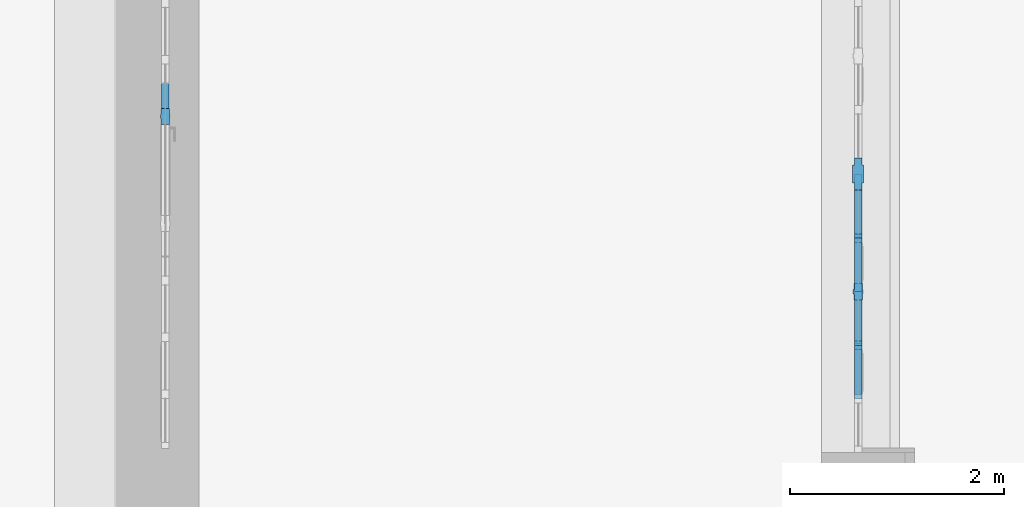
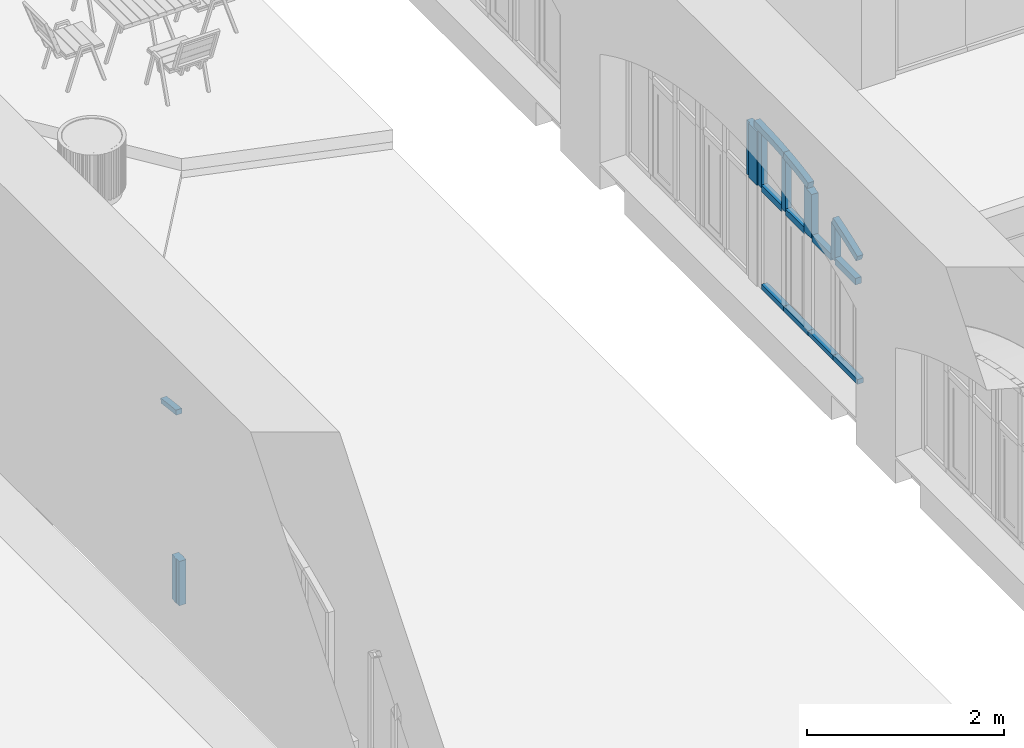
# One storey, part 39 of 88: 17 members, 2 elements without a shape of their own.
"""IFC2X3 building model written with IfcOpenShell, lengths in millimetres."""

from ifc_helpers import new_model, entity, si_unit, converted_unit, derived_unit, direction, frame, frame_2d, origin, place, context, subcontext, project, spatial, polyline, circle_curve, parameter, trimmed, segment, composite_curve, rectangle, outline, extrude, faceted_brep, source, transform, mapped, material, type_object, type_shapes, element, aggregate, save


model = new_model("IFC2X3")

# Units and contexts
model_context = context("Model", 3, precision=0.01, world=origin(), true_north=direction((6.123031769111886e-17, 1.0)))
body_context = subcontext(model_context, "Body", "Model", "MODEL_VIEW")
ifc_project = project(units=[si_unit("LENGTHUNIT", "METRE", prefix="MILLI"), si_unit("AREAUNIT", "SQUARE_METRE"), si_unit("VOLUMEUNIT", "CUBIC_METRE"), converted_unit("PLANEANGLEUNIT", "DEGREE", entity("IfcPlaneAngleMeasure", 0.017453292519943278), si_unit("PLANEANGLEUNIT", "RADIAN"), dimensions=[0, 0, 0, 0, 0, 0, 0]), si_unit("MASSUNIT", "GRAM", prefix="KILO"), derived_unit("MASSDENSITYUNIT", [(si_unit("MASSUNIT", "GRAM", prefix="KILO"), 1), (si_unit("LENGTHUNIT", "METRE"), -3)]), derived_unit("IONCONCENTRATIONUNIT", [(si_unit("MASSUNIT", "GRAM", prefix="KILO"), 1), (si_unit("LENGTHUNIT", "METRE"), -3)]), derived_unit("MOMENTOFINERTIAUNIT", [(si_unit("LENGTHUNIT", "METRE"), 4)]), si_unit("TIMEUNIT", "SECOND"), si_unit("FREQUENCYUNIT", "HERTZ"), si_unit("THERMODYNAMICTEMPERATUREUNIT", "DEGREE_CELSIUS"), derived_unit("THERMALTRANSMITTANCEUNIT", [(si_unit("MASSUNIT", "GRAM", prefix="KILO"), 1), (si_unit("THERMODYNAMICTEMPERATUREUNIT", "KELVIN"), -1), (si_unit("TIMEUNIT", "SECOND"), -3)]), derived_unit("THERMALCONDUCTANCEUNIT", [(si_unit("MASSUNIT", "GRAM", prefix="KILO"), 1), (si_unit("THERMODYNAMICTEMPERATUREUNIT", "KELVIN"), -1), (si_unit("TIMEUNIT", "SECOND"), -3), (si_unit("LENGTHUNIT", "METRE"), 1)]), derived_unit("VOLUMETRICFLOWRATEUNIT", [(si_unit("LENGTHUNIT", "METRE", prefix="DECI"), 3), (si_unit("TIMEUNIT", "SECOND"), -1)]), derived_unit("MASSFLOWRATEUNIT", [(si_unit("MASSUNIT", "GRAM", prefix="KILO"), 1), (si_unit("TIMEUNIT", "SECOND"), -1)]), derived_unit("ROTATIONALFREQUENCYUNIT", [(si_unit("TIMEUNIT", "SECOND"), -1)]), si_unit("ELECTRICCURRENTUNIT", "AMPERE"), si_unit("ELECTRICVOLTAGEUNIT", "VOLT"), si_unit("POWERUNIT", "WATT"), si_unit("FORCEUNIT", "NEWTON", prefix="KILO"), si_unit("ILLUMINANCEUNIT", "LUX"), si_unit("LUMINOUSFLUXUNIT", "LUMEN"), si_unit("LUMINOUSINTENSITYUNIT", "CANDELA"), si_unit("ENERGYUNIT", "JOULE"), derived_unit("USERDEFINED", [(si_unit("MASSUNIT", "GRAM", prefix="KILO"), -1), (si_unit("LENGTHUNIT", "METRE"), -2), (si_unit("TIMEUNIT", "SECOND"), 3), (si_unit("LUMINOUSFLUXUNIT", "LUMEN"), 1)]), derived_unit("USERDEFINED", [(si_unit("MASSUNIT", "GRAM", prefix="KILO"), 1), (si_unit("TIMEUNIT", "SECOND"), -3), (si_unit("LENGTHUNIT", "METRE"), 3), (si_unit("ELECTRICCURRENTUNIT", "AMPERE"), -2)]), derived_unit("SOUNDPOWERUNIT", [(si_unit("MASSUNIT", "GRAM", prefix="KILO"), 1), (si_unit("TIMEUNIT", "SECOND"), -3), (si_unit("LENGTHUNIT", "METRE"), 2)]), derived_unit("SOUNDPRESSUREUNIT", [(si_unit("MASSUNIT", "GRAM", prefix="KILO"), 1), (si_unit("LENGTHUNIT", "METRE"), -1), (si_unit("TIMEUNIT", "SECOND"), -2)]), derived_unit("LINEARVELOCITYUNIT", [(si_unit("LENGTHUNIT", "METRE"), 1), (si_unit("TIMEUNIT", "SECOND"), -1)]), si_unit("PRESSUREUNIT", "PASCAL"), derived_unit("USERDEFINED", [(si_unit("MASSUNIT", "GRAM", prefix="KILO"), 1), (si_unit("LENGTHUNIT", "METRE"), -2), (si_unit("TIMEUNIT", "SECOND"), -2)]), derived_unit("LINEARFORCEUNIT", [(si_unit("MASSUNIT", "GRAM", prefix="KILO"), 1), (si_unit("TIMEUNIT", "SECOND"), -2)]), derived_unit("PLANARFORCEUNIT", [(si_unit("MASSUNIT", "GRAM", prefix="KILO"), 1), (si_unit("LENGTHUNIT", "METRE"), -1), (si_unit("TIMEUNIT", "SECOND"), -2)]), derived_unit("SPECIFICHEATCAPACITYUNIT", [(si_unit("THERMODYNAMICTEMPERATUREUNIT", "KELVIN"), -1), (si_unit("LENGTHUNIT", "METRE"), 2), (si_unit("TIMEUNIT", "SECOND"), -2)]), derived_unit("HEATFLUXDENSITYUNIT", [(si_unit("MASSUNIT", "GRAM", prefix="KILO"), 1), (si_unit("TIMEUNIT", "SECOND"), -3)]), derived_unit("HEATINGVALUEUNIT", [(si_unit("LENGTHUNIT", "METRE"), 2), (si_unit("TIMEUNIT", "SECOND"), -2)]), derived_unit("VAPORPERMEABILITYUNIT", [(si_unit("LENGTHUNIT", "METRE"), -1), (si_unit("TIMEUNIT", "SECOND"), 1)]), derived_unit("DYNAMICVISCOSITYUNIT", [(si_unit("MASSUNIT", "GRAM", prefix="KILO"), 1), (si_unit("TIMEUNIT", "SECOND"), -1), (si_unit("LENGTHUNIT", "METRE"), -1)]), derived_unit("THERMALEXPANSIONCOEFFICIENTUNIT", [(si_unit("THERMODYNAMICTEMPERATUREUNIT", "KELVIN"), -1)]), derived_unit("MODULUSOFELASTICITYUNIT", [(si_unit("MASSUNIT", "GRAM", prefix="KILO"), 1), (si_unit("LENGTHUNIT", "METRE"), -1), (si_unit("TIMEUNIT", "SECOND"), -2)]), derived_unit("ISOTHERMALMOISTURECAPACITYUNIT", [(si_unit("MASSUNIT", "GRAM", prefix="KILO"), -1), (si_unit("LENGTHUNIT", "METRE"), 3)]), derived_unit("MOISTUREDIFFUSIVITYUNIT", [(si_unit("TIMEUNIT", "SECOND"), -1), (si_unit("LENGTHUNIT", "METRE"), 2)]), derived_unit("MASSPERLENGTHUNIT", [(si_unit("MASSUNIT", "GRAM", prefix="KILO"), 1), (si_unit("LENGTHUNIT", "METRE"), -1)]), derived_unit("THERMALRESISTANCEUNIT", [(si_unit("MASSUNIT", "GRAM", prefix="KILO"), -1), (si_unit("TIMEUNIT", "SECOND"), 3), (si_unit("THERMODYNAMICTEMPERATUREUNIT", "KELVIN"), 1)]), derived_unit("ACCELERATIONUNIT", [(si_unit("LENGTHUNIT", "METRE"), 1), (si_unit("TIMEUNIT", "SECOND"), -2)]), derived_unit("ANGULARVELOCITYUNIT", [(si_unit("TIMEUNIT", "SECOND"), -1), (si_unit("PLANEANGLEUNIT", "RADIAN"), 1)]), derived_unit("LINEARSTIFFNESSUNIT", [(si_unit("MASSUNIT", "GRAM", prefix="KILO"), 1), (si_unit("TIMEUNIT", "SECOND"), -2)]), derived_unit("WARPINGCONSTANTUNIT", [(si_unit("LENGTHUNIT", "METRE"), 6)]), derived_unit("LINEARMOMENTUNIT", [(si_unit("MASSUNIT", "GRAM", prefix="KILO"), 1), (si_unit("LENGTHUNIT", "METRE"), 1), (si_unit("TIMEUNIT", "SECOND"), -2)]), derived_unit("TORQUEUNIT", [(si_unit("MASSUNIT", "GRAM", prefix="KILO"), 1), (si_unit("LENGTHUNIT", "METRE"), 2), (si_unit("TIMEUNIT", "SECOND"), -2)])], contexts=[model_context])

# Site, building, storey
site_placement = place(None, origin())
site = spatial("IfcSite", under=ifc_project, at=site_placement, Name="Default", CompositionType="ELEMENT")
building_placement = place(site_placement, origin())
building = spatial("IfcBuilding", under=site, at=building_placement, Name="Eesti Rahvusraamatukogu hoone renoveerimise projekteerimistööd", CompositionType="ELEMENT")
storey_placement = place(building_placement, origin())
storey = spatial("IfcBuildingStorey", under=building, at=storey_placement, Name="1. korrus", CompositionType="ELEMENT", Elevation=0.0)

# Curtain wall, members
curtain_wall_type_1 = type_object("IfcCurtainWallType", Name="Curtain Wall:Ak-02", PredefinedType="NOTDEFINED")
curtain_wall_1_placement = place(storey_placement, origin())
curtain_wall_1 = element("IfcCurtainWall", 1, at=curtain_wall_1_placement, inside=storey, type_object=curtain_wall_type_1, Name="Curtain Wall:Ak-02", ObjectType="Curtain Wall:Ak-02")
ifc_material = material(Name="LUMION_dark steel window frames")
member_type_1 = type_object("IfcMemberType", Name="Rectangular Mullion:NEW 80x70mm", PredefinedType="MULLION", material=ifc_material)
shared_shape_1 = source(origin(), body_context, "Body", "SweptSolid", [
    extrude(outline(composite_curve([segment(polyline([(-56.23219214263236, -297.82636877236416), (23.767807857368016, -297.82636877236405)]), True, "CONTINUOUS"), segment(trimmed(circle_curve(frame_2d((5464.483487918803, -297.82636877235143), x_axis=(-0.9940766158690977, 0.10868156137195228)), 5440.715680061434), [parameter(3.053332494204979e-13)], [parameter(6.2393189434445)], True, "PARAMETER"), False, "CONTINUOUS"), segment(polyline([(55.99525677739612, 293.47910631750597), (-23.53087249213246, 302.1736312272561)]), True, "CONTINUOUS"), segment(trimmed(circle_curve(frame_2d((5464.483487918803, -297.82636877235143), x_axis=(-0.9940766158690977, 0.10868156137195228)), 5520.715680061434), [parameter(3.5622212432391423e-13)], [parameter(6.2393189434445)], True, "PARAMETER"), True, "CONTINUOUS")], self_intersect=False)), frame((-56.23219214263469, -35.0, -297.82636877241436), z_axis=(0.0, 1.0, 0.0), x_axis=(-0.9940766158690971, 0.0, 0.10868156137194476)), (0.0, 0.0, 1.0), 69.99999999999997),
])
type_shapes(member_type_1, [shared_shape_1])
member_1_placement = place(curtain_wall_1_placement, frame((-36440.0, 38790.0, 3947.870459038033), z_axis=(0.0, -0.9940766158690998, -0.108681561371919), x_axis=(0.0, -0.108681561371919, 0.9940766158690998)))
member_1 = element("IfcMember", 2, at=member_1_placement, type_object=member_type_1, material=ifc_material, Name="Rectangular Mullion:NEW 80x70mm", ObjectType="Rectangular Mullion:NEW 80x70mm", context=body_context, shape_type="MappedRepresentation", body=[
    mapped(shared_shape_1, transform((0.0, 0.0, 0.0), scale=1.0)),
])
member_type_2 = type_object("IfcMemberType", Name="Rectangular Mullion:NEW 80x70mm", PredefinedType="MULLION", material=ifc_material)
shared_shape_2 = source(origin(), body_context, "Body", "SweptSolid", [
    extrude(outline(composite_curve([segment(polyline([(-51.51245202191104, -250.9261639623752), (28.487547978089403, -250.92616396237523)]), True, "CONTINUOUS"), segment(trimmed(circle_curve(frame_2d((5469.203228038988, -250.9261639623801), x_axis=(-0.9957989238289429, 0.09156693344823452)), 5440.715680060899), [parameter(3.5622212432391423e-13)], [parameter(5.253758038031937)], True, "PARAMETER"), False, "CONTINUOUS"), segment(polyline([(51.34440897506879, 247.26348662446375), (-28.319504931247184, 254.5888413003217)]), True, "CONTINUOUS"), segment(trimmed(circle_curve(frame_2d((5469.203228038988, -250.9261639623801), x_axis=(-0.9957989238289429, 0.09156693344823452)), 5520.715680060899), [parameter(3.5622212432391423e-13)], [parameter(5.253758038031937)], True, "PARAMETER"), True, "CONTINUOUS")], self_intersect=False)), frame((-51.512452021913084, -35.0, -250.926163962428), z_axis=(0.0, 1.0, 0.0), x_axis=(-0.9957989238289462, 0.0, 0.09156693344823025)), (0.0, 0.0, 1.0), 70.00000000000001),
])
type_shapes(member_type_2, [shared_shape_2])
member_2_placement = place(curtain_wall_1_placement, frame((-36440.0, 38290.0, 3869.874732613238), z_axis=(0.0, -0.9799487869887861, -0.19924952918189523), x_axis=(0.0, -0.19924952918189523, 0.9799487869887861)))
member_2 = element("IfcMember", 3, at=member_2_placement, type_object=member_type_2, material=ifc_material, Name="Rectangular Mullion:NEW 80x70mm", ObjectType="Rectangular Mullion:NEW 80x70mm", context=body_context, shape_type="MappedRepresentation", body=[
    mapped(shared_shape_2, transform((0.0, 0.0, 0.0), scale=1.0)),
])
member_type_3 = type_object("IfcMemberType", Name="Rectangular Mullion:NEW 80x70mm", PredefinedType="MULLION", material=ifc_material)
shared_shape_3 = source(origin(), body_context, "Body", "SweptSolid", [
    extrude(outline(composite_curve([segment(polyline([(-52.66438607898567, -263.1530214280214), (27.33561392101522, -263.1530214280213)]), True, "CONTINUOUS"), segment(trimmed(circle_curve(frame_2d((5468.05129398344, -263.15302142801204), x_axis=(-0.9953785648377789, 0.09602870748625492)), 5440.715680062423), [parameter(3.5622212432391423e-13)], [parameter(5.510531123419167)], True, "PARAMETER"), False, "CONTINUOUS"), segment(polyline([(52.47952867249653, 259.31187312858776), (-27.150756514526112, 266.99416972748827)]), True, "CONTINUOUS"), segment(trimmed(circle_curve(frame_2d((5468.05129398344, -263.15302142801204), x_axis=(-0.9953785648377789, 0.09602870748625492)), 5520.715680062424), [parameter(3.5622212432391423e-13)], [parameter(5.510531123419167)], True, "PARAMETER"), True, "CONTINUOUS")], self_intersect=False)), frame((-52.66438607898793, -35.0, -263.1530214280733), z_axis=(0.0, 1.0, 0.0), x_axis=(-0.9953785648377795, 0.0, 0.09602870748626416)), (0.0, 0.0, 1.0), 70.0),
])
type_shapes(member_type_3, [shared_shape_3])
member_3_placement = place(curtain_wall_1_placement, frame((-36440.0, 37290.0, 3565.5687442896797), z_axis=(0.0, -0.9248280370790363, -0.3803854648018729), x_axis=(0.0, -0.3803854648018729, 0.9248280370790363)))
member_3 = element("IfcMember", 4, at=member_3_placement, type_object=member_type_3, material=ifc_material, Name="Rectangular Mullion:NEW 80x70mm", ObjectType="Rectangular Mullion:NEW 80x70mm", context=body_context, shape_type="MappedRepresentation", body=[
    mapped(shared_shape_3, transform((0.0, 0.0, 0.0), scale=1.0)),
])
member_type_4 = type_object("IfcMemberType", Name="Rectangular Mullion:NEW 300x100mm", PredefinedType="MULLION", material=ifc_material)
shared_shape_4 = source(origin(), body_context, "Body", "Brep", [
    faceted_brep([(-85.0, -50.0, 0.0), (85.0, -50.0, 0.0), (85.0, -35.0, 0.0), (150.0, -35.0, 0.0), (150.0, 35.0, 0.0), (85.0, 35.0, 0.0), (85.0, 50.0, 0.0), (-85.0, 50.0, 0.0), (-85.0, 35.0, 0.0), (-150.0, 35.0, 0.0), (-150.0, -35.0, 0.0), (-85.0, -35.0, 0.0), (-85.0, 35.0, -669.9077630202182), (-117.50209737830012, 35.0, -669.3027955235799), (-150.0, 35.0, -668.5036429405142), (150.0, 35.0, -668.5036429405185), (117.50209737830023, 35.0, -669.3027955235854), (85.0, 35.0, -669.9077630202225), (-150.0, -35.0, -668.5036429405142), (-117.5020973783, -35.0, -669.3027955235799), (-85.0, -35.0, -669.9077630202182), (85.0, -35.0, -669.9077630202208), (117.50209737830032, -35.0, -669.3027955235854), (150.0, -35.0, -668.5036429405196), (-85.0, -50.0, -669.9077630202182), (-85.0, 50.0, -669.9077630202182), (-42.50064842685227, -50.0, -670.4057773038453), (0.0, -50.0, -670.5717786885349), (42.500648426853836, -50.0, -670.4057773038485), (85.0, -50.0, -669.9077630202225), (85.0, 50.0, -669.9077630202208), (42.500648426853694, 50.0, -670.4057773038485), (0.0, 50.0, -670.5717786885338), (-42.50064842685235, 50.0, -670.4057773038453)], [[[0, 1, 2, 3, 4, 5, 6, 7, 8, 9, 10, 11]], [[9, 8, 12, 13, 14]], [[5, 4, 15, 16, 17]], [[10, 9, 14, 18]], [[11, 10, 18, 19, 20]], [[3, 2, 21, 22, 23]], [[0, 11, 20, 24]], [[8, 7, 25, 12]], [[1, 0, 24, 26, 27, 28, 29]], [[2, 1, 29, 21]], [[6, 5, 17, 30]], [[4, 3, 23, 15]], [[7, 6, 30, 31, 32, 33, 25]], [[33, 32, 27, 26]], [[20, 12, 25, 33, 26, 24]], [[20, 19, 13, 12]], [[19, 18, 14, 13]], [[15, 23, 22, 16]], [[16, 22, 21, 17]], [[21, 29, 28, 31, 30, 17]], [[31, 28, 27, 32]]]),
])
type_shapes(member_type_4, [shared_shape_4])
member_4_placement = place(curtain_wall_1_placement, frame((-36440.0, 39390.0, 3230.0), z_axis=(0.0, 0.0, -1.0), x_axis=(0.0, -1.0, 0.0)))
member_4 = element("IfcMember", 5, at=member_4_placement, type_object=member_type_4, material=ifc_material, Name="Rectangular Mullion:NEW 300x100mm", ObjectType="Rectangular Mullion:NEW 300x100mm", context=body_context, shape_type="MappedRepresentation", body=[
    mapped(shared_shape_4, transform((0.0, 0.0, 0.0), scale=1.0)),
])
member_type_5 = type_object("IfcMemberType", Name="Rectangular Mullion:NEW 80x70mm", PredefinedType="MULLION", material=ifc_material)
shared_shape_5 = source(origin(), body_context, "Body", "SweptSolid", [
    extrude(outline(composite_curve([segment(polyline([(-382.56363634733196, -41.73890498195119), (250.23491165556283, -41.73890498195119)]), True, "CONTINUOUS"), segment(trimmed(circle_curve(frame_2d((-5152.707537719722, 598.2610950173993), x_axis=(0.9799487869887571, -0.19924952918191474)), 5440.715680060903), [parameter(4.737642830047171)], [parameter(5.253758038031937)], True, "PARAMETER"), True, "CONTINUOUS"), segment(trimmed(circle_curve(frame_2d((-5152.70753772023, 598.2610950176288), x_axis=(0.994076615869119, -0.10868156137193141)), 5440.715680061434), [parameter(0.0)], [parameter(0.33153708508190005)], True, "PARAMETER"), True, "CONTINUOUS"), segment(polyline([(259.11166761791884, 38.26109501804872), (-382.56363634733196, 38.26109501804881)]), True, "CONTINUOUS"), segment(polyline([(-382.56363634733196, 38.26109501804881), (-382.56363634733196, -41.73890498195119)]), True, "CONTINUOUS")], self_intersect=False)), frame((-1.7389049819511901, -35.0, -382.56363634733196), z_axis=(0.0, 1.0, 0.0), x_axis=(0.0, 0.0, -1.0)), (0.0, 0.0, 1.0), 70.00000000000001),
])
type_shapes(member_type_5, [shared_shape_5])
member_5_placement = place(curtain_wall_1_placement, frame((-36440.0, 38790.0, 3230.0), z_axis=(0.0, 0.0, -1.0), x_axis=(0.0, -1.0, 0.0)))
member_5 = element("IfcMember", 6, at=member_5_placement, type_object=member_type_5, material=ifc_material, Name="Rectangular Mullion:NEW 80x70mm", ObjectType="Rectangular Mullion:NEW 80x70mm", context=body_context, shape_type="MappedRepresentation", body=[
    mapped(shared_shape_5, transform((0.0, 0.0, 0.0), scale=1.0)),
])
member_type_6 = type_object("IfcMemberType", Name="Rectangular Mullion:NEW 150x90mm", PredefinedType="MULLION", material=ifc_material)
shared_shape_6 = source(origin(), body_context, "Body", "Brep", [
    faceted_brep([(-20.0, -40.0, 0.0), (-20.0, -45.0, 0.0), (20.0, -45.0, 0.0), (20.0, -40.0, 0.0), (75.0, -40.0, 0.0), (75.0, 40.0, 0.0), (20.0, 40.0, 0.0), (20.0, 45.0, 0.0), (-20.0, 45.0, 0.0), (-20.0, 40.0, 0.0), (-75.0, 40.0, 0.0), (-75.0, -40.0, 0.0), (-20.0, 40.0, -562.3027332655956), (-47.48603249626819, 40.0, -567.7959127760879), (-75.0, 40.0, -573.1474168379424), (75.0, 40.0, -542.1778237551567), (47.51534075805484, 40.0, -548.1824945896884), (20.0, 40.0, -554.044967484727), (-75.0, -40.0, -573.1474168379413), (-47.48603249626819, -40.0, -567.7959127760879), (-20.0, -40.0, -562.3027332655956), (20.0, -40.0, -554.0449674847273), (47.51534075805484, -40.0, -548.1824945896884), (75.0, -40.0, -542.1778237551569), (-20.0, -45.0, -562.3027332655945), (-20.0, 45.0, -562.3027332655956), (-17.969902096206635, -45.0, -561.891167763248), (-15.939962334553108, -45.0, -561.4788296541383), (2.036281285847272, -45.0, -557.7922042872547), (20.0, -45.0, -554.044967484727), (20.0, 45.0, -554.0449674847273), (2.0362812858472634, 45.0, -557.7922042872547), (-15.939962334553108, 45.0, -561.4788296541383), (-17.969902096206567, 45.0, -561.8911677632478), (-15.939962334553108, -33.75000000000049, -561.4788296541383), (-15.939962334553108, -22.50000000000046, -561.4788296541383), (-15.939962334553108, 33.7499999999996, -561.4788296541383), (-15.939962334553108, 22.49999999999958, -561.4788296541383), (-15.939962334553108, 0.0, -561.4788296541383)], [[[0, 1, 2, 3, 4, 5, 6, 7, 8, 9, 10, 11]], [[10, 9, 12, 13, 14]], [[6, 5, 15, 16, 17]], [[11, 10, 14, 18]], [[0, 11, 18, 19, 20]], [[4, 3, 21, 22, 23]], [[1, 0, 20, 24]], [[9, 8, 25, 12]], [[1, 24, 26, 27, 28, 29, 2]], [[3, 2, 29, 21]], [[7, 6, 17, 30]], [[5, 4, 23, 15]], [[7, 30, 31, 32, 33, 25, 8]], [[26, 20, 27]], [[34, 27, 20, 35]], [[12, 32, 36, 37]], [[12, 33, 32]], [[12, 25, 33]], [[20, 26, 24]], [[38, 35, 19, 13, 37]], [[19, 35, 20]], [[13, 19, 18, 14]], [[12, 37, 13]], [[15, 23, 22, 16]], [[16, 22, 21, 17]], [[21, 29, 28, 31, 30, 17]], [[31, 28, 27, 34, 35, 38, 37, 36, 32]]]),
])
type_shapes(member_type_6, [shared_shape_6])
member_6_placement = place(curtain_wall_1_placement, frame((-36440.0, 38290.0, 3230.0), z_axis=(0.0, 0.0, -1.0), x_axis=(0.0, -1.0, 0.0)))
member_6 = element("IfcMember", 7, at=member_6_placement, type_object=member_type_6, material=ifc_material, Name="Rectangular Mullion:NEW 150x90mm", ObjectType="Rectangular Mullion:NEW 150x90mm", context=body_context, shape_type="MappedRepresentation", body=[
    mapped(shared_shape_6, transform((0.0, 0.0, 0.0), scale=1.0)),
])
member_type_7 = type_object("IfcMemberType", Name="Rectangular Mullion:NEW 80x70mm", PredefinedType="MULLION", material=ifc_material)
shared_shape_7 = source(origin(), body_context, "Body", "SweptSolid", [
    extrude(outline(composite_curve([segment(polyline([(-259.341776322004, -44.637079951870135), (158.1715113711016, -44.637079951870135)]), True, "CONTINUOUS"), segment(trimmed(circle_curve(frame_2d((-5029.485677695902, 1595.362920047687), x_axis=(0.9248280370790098, -0.3803854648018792)), 5440.715680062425), [parameter(4.8139927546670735)], [parameter(5.510531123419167)], True, "PARAMETER"), True, "CONTINUOUS"), segment(trimmed(circle_curve(frame_2d((-5029.48567769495, 1595.3629200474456), x_axis=(0.9570819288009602, -0.28981749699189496)), 5440.715680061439), [parameter(0.0)], [parameter(0.18492371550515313)], True, "PARAMETER"), True, "CONTINUOUS"), segment(polyline([(182.78706183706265, 35.36292004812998), (-259.341776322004, 35.362920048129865)]), True, "CONTINUOUS"), segment(polyline([(-259.341776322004, 35.362920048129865), (-259.341776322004, -44.637079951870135)]), True, "CONTINUOUS")], self_intersect=False)), frame((-4.637079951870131, -35.0, -259.341776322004), z_axis=(0.0, 1.0, 0.0), x_axis=(0.0, 0.0, -1.0)), (0.0, 0.0, 1.0), 69.99999999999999),
])
type_shapes(member_type_7, [shared_shape_7])
member_7_placement = place(curtain_wall_1_placement, frame((-36440.0, 37790.0, 3230.0), z_axis=(0.0, 0.0, -1.0), x_axis=(0.0, -1.0, 0.0)))
member_7 = element("IfcMember", 8, at=member_7_placement, type_object=member_type_7, material=ifc_material, Name="Rectangular Mullion:NEW 80x70mm", ObjectType="Rectangular Mullion:NEW 80x70mm", context=body_context, shape_type="MappedRepresentation", body=[
    mapped(shared_shape_7, transform((0.0, 0.0, 0.0), scale=1.0)),
])
member_type_8 = type_object("IfcMemberType", Name="Rectangular Mullion:NEW 80x70mm", PredefinedType="MULLION", material=ifc_material)
shared_shape_8 = source(origin(), body_context, "Body", "SweptSolid", [
    extrude(rectangle(XDim=80.0, YDim=70.0, at=frame_2d((0.0, -3.552713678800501e-15), x_axis=(1.0, 0.0))), frame((0.0, 0.0, -420.0), z_axis=(0.0, 0.0, 1.0), x_axis=(-1.0, 0.0, 0.0)), (0.0, 0.0, 1.0), 419.999999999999),
])
type_shapes(member_type_8, [shared_shape_8])
member_8_placement = place(curtain_wall_1_placement, frame((-36440.0, 37330.0, 3230.0), z_axis=(0.0, -1.0, 0.0), x_axis=(0.0, 0.0, 1.0)))
member_8 = element("IfcMember", 9, at=member_8_placement, type_object=member_type_8, material=ifc_material, Name="Rectangular Mullion:NEW 80x70mm", ObjectType="Rectangular Mullion:NEW 80x70mm", context=body_context, shape_type="MappedRepresentation", body=[
    mapped(shared_shape_8, transform((0.0, 0.0, 0.0), scale=1.0)),
])
member_type_9 = type_object("IfcMemberType", Name="Rectangular Mullion:NEW 80x70mm", PredefinedType="MULLION", material=ifc_material)
shared_shape_9 = source(origin(), body_context, "Body", "SweptSolid", [
    extrude(rectangle(XDim=80.0, YDim=70.0, at=frame_2d((0.0, -3.552713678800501e-15), x_axis=(1.0, 0.0))), frame((0.0, 0.0, -385.0), z_axis=(0.0, 0.0, 1.0), x_axis=(-1.0, 0.0, 0.0)), (0.0, 0.0, 1.0), 384.99999999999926),
])
type_shapes(member_type_9, [shared_shape_9])
member_9_placement = place(curtain_wall_1_placement, frame((-36440.0, 38365.0, 3230.0), z_axis=(0.0, -1.0, 0.0), x_axis=(0.0, 0.0, 1.0)))
member_9 = element("IfcMember", 10, at=member_9_placement, type_object=member_type_9, material=ifc_material, Name="Rectangular Mullion:NEW 80x70mm", ObjectType="Rectangular Mullion:NEW 80x70mm", context=body_context, shape_type="MappedRepresentation", body=[
    mapped(shared_shape_9, transform((0.0, 0.0, 0.0), scale=1.0)),
])
member_10_placement = place(curtain_wall_1_placement, frame((-36440.0, 37830.0, 3230.0), z_axis=(0.0, -1.0, 0.0), x_axis=(0.0, 0.0, 1.0)))
member_10 = element("IfcMember", 11, at=member_10_placement, type_object=member_type_9, material=ifc_material, Name="Rectangular Mullion:NEW 80x70mm", ObjectType="Rectangular Mullion:NEW 80x70mm", context=body_context, shape_type="MappedRepresentation", body=[
    mapped(shared_shape_9, transform((0.0, 0.0, 0.0), scale=1.0)),
])
member_type_10 = type_object("IfcMemberType", Name="Rectangular Mullion:NEW 80x70mm", PredefinedType="MULLION", material=ifc_material)
shared_shape_10 = source(origin(), body_context, "Body", "SweptSolid", [
    extrude(rectangle(XDim=80.0, YDim=70.0, at=frame_2d((0.0, -3.552713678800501e-15), x_axis=(1.0, 0.0))), frame((0.0, 0.0, -410.0), z_axis=(0.0, 0.0, 1.0), x_axis=(-1.0, 0.0, 0.0)), (0.0, 0.0, 1.0), 409.9999999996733),
])
type_shapes(member_type_10, [shared_shape_10])
member_11_placement = place(curtain_wall_1_placement, frame((-36440.0, 38830.0, 3230.0), z_axis=(0.0, -1.0, 0.0), x_axis=(0.0, 0.0, 1.0)))
member_11 = element("IfcMember", 12, at=member_11_placement, type_object=member_type_10, material=ifc_material, Name="Rectangular Mullion:NEW 80x70mm", ObjectType="Rectangular Mullion:NEW 80x70mm", context=body_context, shape_type="MappedRepresentation", body=[
    mapped(shared_shape_10, transform((0.0, 0.0, 0.0), scale=1.0)),
])
member_type_11 = type_object("IfcMemberType", Name="Rectangular Mullion:NEW 60x70mm", PredefinedType="MULLION", material=ifc_material)
shared_shape_11 = source(origin(), body_context, "Body", "SweptSolid", [
    extrude(rectangle(XDim=60.0, YDim=70.0, at=frame_2d((0.0, 3.552713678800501e-15), x_axis=(1.0, 0.0))), frame((-30.0, 0.0, -500.0), z_axis=(0.0, 0.0, 1.0), x_axis=(-1.0, 0.0, 0.0)), (0.0, 0.0, 1.0), 499.999999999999),
])
type_shapes(member_type_11, [shared_shape_11])
member_12_placement = place(curtain_wall_1_placement, frame((-36440.0, 38790.0, 1980.0), z_axis=(0.0, 1.0, 0.0), x_axis=(0.0, 0.0, -1.0)))
member_12 = element("IfcMember", 13, at=member_12_placement, type_object=member_type_11, material=ifc_material, Name="Rectangular Mullion:NEW 60x70mm", ObjectType="Rectangular Mullion:NEW 60x70mm", context=body_context, shape_type="MappedRepresentation", body=[
    mapped(shared_shape_11, transform((0.0, 0.0, 0.0), scale=1.0)),
])
member_13_placement = place(curtain_wall_1_placement, frame((-36440.0, 38290.0, 1980.0), z_axis=(0.0, 1.0, 0.0), x_axis=(0.0, 0.0, -1.0)))
member_13 = element("IfcMember", 14, at=member_13_placement, type_object=member_type_11, material=ifc_material, Name="Rectangular Mullion:NEW 60x70mm", ObjectType="Rectangular Mullion:NEW 60x70mm", context=body_context, shape_type="MappedRepresentation", body=[
    mapped(shared_shape_11, transform((0.0, 0.0, 0.0), scale=1.0)),
])
member_14_placement = place(curtain_wall_1_placement, frame((-36440.0, 37790.0, 1980.0), z_axis=(0.0, 1.0, 0.0), x_axis=(0.0, 0.0, -1.0)))
member_14 = element("IfcMember", 15, at=member_14_placement, type_object=member_type_11, material=ifc_material, Name="Rectangular Mullion:NEW 60x70mm", ObjectType="Rectangular Mullion:NEW 60x70mm", context=body_context, shape_type="MappedRepresentation", body=[
    mapped(shared_shape_11, transform((0.0, 0.0, 0.0), scale=1.0)),
])
member_type_12 = type_object("IfcMemberType", Name="Rectangular Mullion:NEW 60x70mm", PredefinedType="MULLION", material=ifc_material)
shared_shape_12 = source(origin(), body_context, "Body", "SweptSolid", [
    extrude(rectangle(XDim=60.0, YDim=70.0, at=frame_2d((0.0, 3.552713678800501e-15), x_axis=(1.0, 0.0))), frame((-30.0, 0.0, -450.0), z_axis=(0.0, 0.0, 1.0), x_axis=(-1.0, 0.0, 0.0)), (0.0, 0.0, 1.0), 449.9999999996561),
])
type_shapes(member_type_12, [shared_shape_12])
member_15_placement = place(curtain_wall_1_placement, frame((-36440.0, 39240.0, 1980.0), z_axis=(0.0, 1.0, 0.0), x_axis=(0.0, 0.0, -1.0)))
member_15 = element("IfcMember", 16, at=member_15_placement, type_object=member_type_12, material=ifc_material, Name="Rectangular Mullion:NEW 60x70mm", ObjectType="Rectangular Mullion:NEW 60x70mm", context=body_context, shape_type="MappedRepresentation", body=[
    mapped(shared_shape_12, transform((0.0, 0.0, 0.0), scale=1.0)),
])
aggregate(curtain_wall_1, [member_1, member_2, member_3, member_4, member_5, member_6, member_7, member_9, member_10, member_8, member_11, member_12, member_13, member_14, member_15])

curtain_wall_type_2 = type_object("IfcCurtainWallType", Name="Curtain Wall:Ak-05", PredefinedType="NOTDEFINED")
curtain_wall_2_placement = place(storey_placement, origin())
curtain_wall_2 = element("IfcCurtainWall", 17, at=curtain_wall_2_placement, inside=storey, type_object=curtain_wall_type_2, Name="Curtain Wall:Ak-05", ObjectType="Curtain Wall:Ak-05")
member_type_13 = type_object("IfcMemberType", Name="Rectangular Mullion:NEW 60x70mm", PredefinedType="MULLION", material=ifc_material)
shared_shape_13 = source(origin(), body_context, "Body", "SweptSolid", [
    extrude(outline(composite_curve([segment(polyline([(-34.44225079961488, -156.14991642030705), (25.5577492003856, -156.14991642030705)]), True, "CONTINUOUS"), segment(trimmed(circle_curve(frame_2d((5488.8383159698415, -156.14991642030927), x_axis=(-0.9983826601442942, 0.05685124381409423)), 5463.280566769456), [parameter(3.5622212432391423e-13)], [parameter(3.2590935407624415)], True, "PARAMETER"), False, "CONTINUOUS"), segment(polyline([(34.393730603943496, 154.44437910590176), (-25.509229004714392, 157.8554537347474)]), True, "CONTINUOUS"), segment(trimmed(circle_curve(frame_2d((5488.8383159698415, -156.14991642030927), x_axis=(-0.9983826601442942, 0.05685124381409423)), 5523.280566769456), [parameter(3.5622212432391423e-13)], [parameter(3.2590935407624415)], True, "PARAMETER"), True, "CONTINUOUS")], self_intersect=False)), frame((-34.44225079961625, -35.0, -156.14991642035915), z_axis=(0.0, 1.0, 0.0), x_axis=(-0.9983826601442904, 0.0, 0.056851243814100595)), (0.0, 0.0, 1.0), 69.99999999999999),
])
type_shapes(member_type_13, [shared_shape_13])
member_16_placement = place(curtain_wall_2_placement, frame((-42905.0, 39925.0, 2327.3219656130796), z_axis=(0.0, -0.9958941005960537, 0.09052591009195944), x_axis=(0.0, 0.09052591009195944, 0.9958941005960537)))
member_16 = element("IfcMember", 18, at=member_16_placement, type_object=member_type_13, material=ifc_material, Name="Rectangular Mullion:NEW 60x70mm", ObjectType="Rectangular Mullion:NEW 60x70mm", context=body_context, shape_type="MappedRepresentation", body=[
    mapped(shared_shape_13, transform((0.0, 0.0, 0.0), scale=1.0)),
])
member_type_14 = type_object("IfcMemberType", Name="Rectangular Mullion:NEW 150x90mm", PredefinedType="MULLION", material=ifc_material)
shared_shape_14 = source(origin(), body_context, "Body", "SweptSolid", [
    extrude(outline(polyline([(40.0, -20.0), (45.0, -20.0), (45.0, 20.0), (40.0, 20.0), (40.0, 75.0), (-40.0, 75.0), (-40.0, 20.0), (-45.0, 20.0), (-45.0, -20.0), (-40.0, -20.0), (-40.0, -75.0), (40.0, -75.0), (40.0, -20.0)])), frame((0.0, 0.0, -550.0), z_axis=(0.0, 0.0, 1.0), x_axis=(0.0, -1.0, 0.0)), (0.0, 0.0, 1.0), 550.0000000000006),
])
type_shapes(member_type_14, [shared_shape_14])
member_17_placement = place(curtain_wall_2_placement, frame((-42905.0, 39925.0, -50.0), z_axis=(0.0, 0.0, -1.0), x_axis=(0.0, -1.0, 0.0)))
member_17 = element("IfcMember", 19, at=member_17_placement, type_object=member_type_14, material=ifc_material, Name="Rectangular Mullion:NEW 150x90mm", ObjectType="Rectangular Mullion:NEW 150x90mm", context=body_context, shape_type="MappedRepresentation", body=[
    mapped(shared_shape_14, transform((0.0, 0.0, 0.0), scale=1.0)),
])
aggregate(curtain_wall_2, [member_16, member_17])

save(model, "model.ifc")
